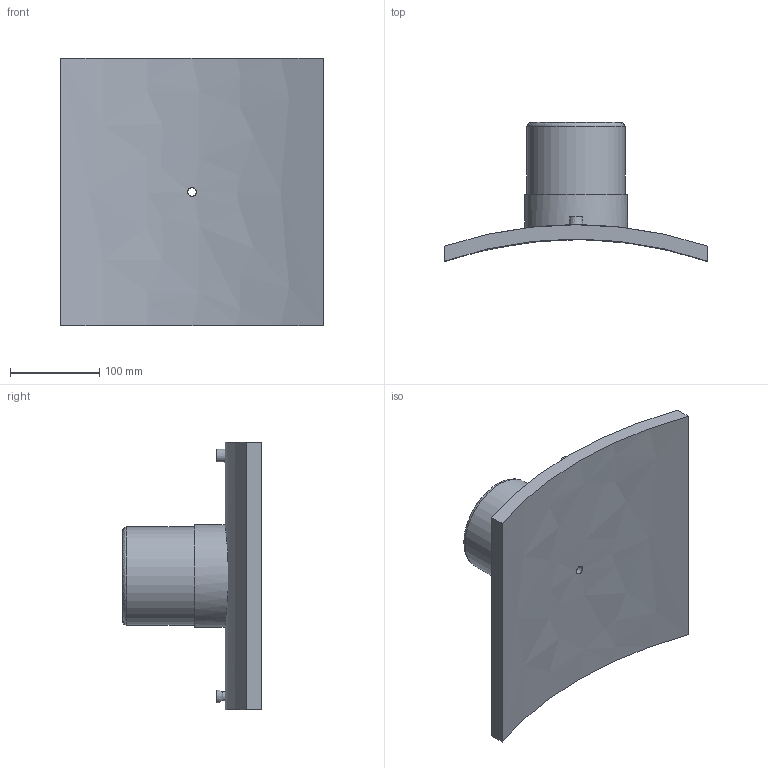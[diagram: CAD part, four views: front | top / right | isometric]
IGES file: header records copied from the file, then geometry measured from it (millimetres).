
Global section: file name: 495803900110T.ipt; native system: Autodesk Inventor 2019; preprocessor: unknown; author: KIM; date: 20210225.095229; units: millimetre
Bounding box: 295 x 155.86 x 300 mm (x, y, z)
Volume: 1879561.1 mm3; surface area: 278984.1 mm2
Topology: 2 solids, 2 shells, 29 faces, 54 edges, 38 vertices
Faces by surface type: plane 13, revolution 7, cylinder 7, cone 2
Full cylindrical faces by diameter (mm): 4 x2, 16 x1, 110 x1, 115.5 x1
